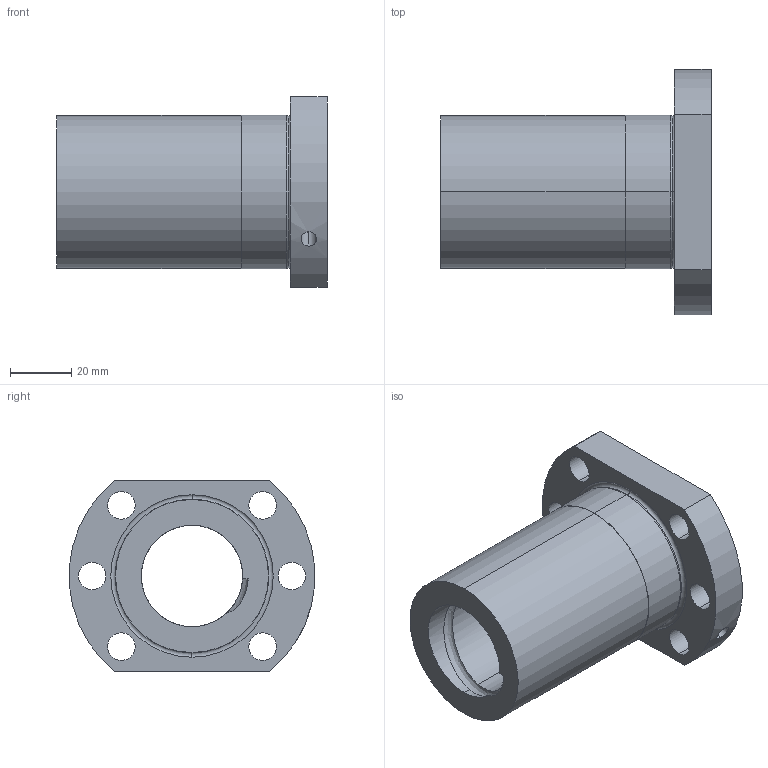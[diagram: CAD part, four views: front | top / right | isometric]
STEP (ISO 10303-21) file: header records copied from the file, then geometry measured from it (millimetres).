
FILE_DESCRIPTION (( 'STEP AP214' ), '1' );
FILE_NAME ('LLE3220-F.STEP', '2020-12-17T06:42:27', ( 'user' ), ( 'datathink' ), 'SwSTEP 2.0', 'SolidWorks 2013', '' );
FILE_SCHEMA (( 'AUTOMOTIVE_DESIGN' ));
Length unit declared in the file: millimetre
Products named in the file (1): LLE3220-F
Bounding box: 88 x 79.74 x 62 mm (x, y, z)
Volume: 118083.9 mm3; surface area: 33712.6 mm2
Topology: 1 solids, 1 shells, 44 faces, 119 edges, 78 vertices
Faces by surface type: cylinder 32, plane 7, torus 4, bspline 1
Entity records: 3227 total; most frequent: CARTESIAN_POINT 2065, ORIENTED_EDGE 238, DIRECTION 228, EDGE_CURVE 119, AXIS2_PLACEMENT_3D 95, VERTEX_POINT 78, EDGE_LOOP 61, CIRCLE 51
